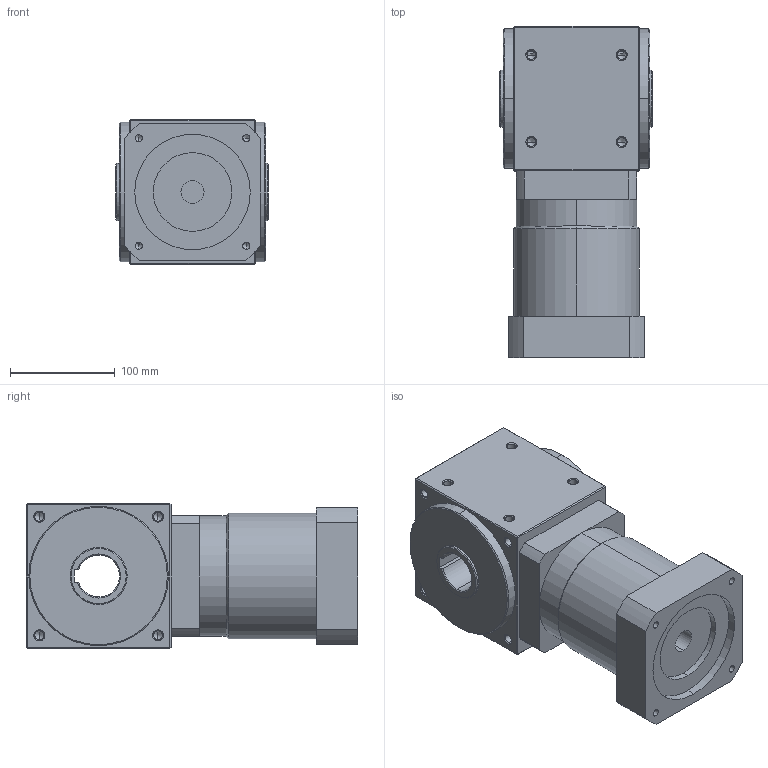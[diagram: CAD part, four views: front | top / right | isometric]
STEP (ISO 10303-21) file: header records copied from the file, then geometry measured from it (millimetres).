
FILE_DESCRIPTION (( 'STEP AP214' ), '1' );
FILE_NAME ('AAW135AS-040-CR-L2(12-100) 22-110-145-M8.STEP', '2020-11-27T01:58:59', ( '微软用户' ), ( '微软中国' ), 'SwSTEP 2.0', 'SolidWorks 2014', '' );
FILE_SCHEMA (( 'AUTOMOTIVE_DESIGN' ));
Length unit declared in the file: millimetre
Products named in the file (2): AAW135AS-040-CR-L2(12-100) 22-110-145-M8
Bounding box: 145 x 316 x 138 mm (x, y, z)
Volume: 4473390.2 mm3; surface area: 235510 mm2
Topology: 1 solids, 1 shells, 231 faces, 554 edges, 302 vertices
Faces by surface type: cone 104, cylinder 77, plane 50
Entity records: 8938 total; most frequent: DIRECTION 1174, CARTESIAN_POINT 1165, ORIENTED_EDGE 1012, EDGE_CURVE 506, AXIS2_PLACEMENT_3D 455, VERTEX_POINT 302, EDGE_LOOP 266, VECTOR 264
